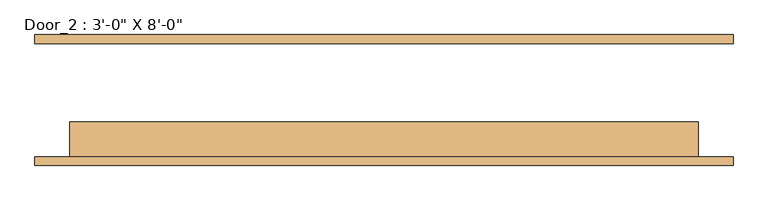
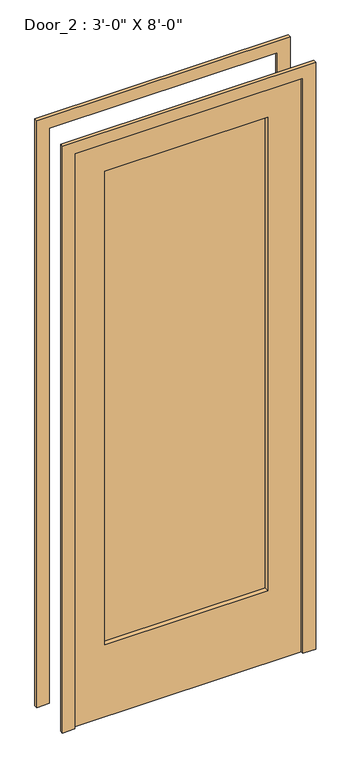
"""IFC4 building model written with IfcOpenShell, lengths in millimetres: door geometry."""

from ifc_helpers import new_model, si_unit, frame, origin, place, context, project, spatial, polyline, outline, extrude, source, transform, mapped, element, save


def door_78e68b44(model_context):
    return source(origin(), model_context, "Body", "SweptSolid", [
        extrude(outline(polyline([(-330.2, -60.325), (-330.2, -47.625), (323.85, -47.625), (323.85, -60.325), (-330.2, -60.325)])), frame((0.0, 0.0, 304.8), z_axis=(0.0, 0.0, 1.0), x_axis=(1.0, 0.0, 0.0)), (0.0, 0.0, 1.0), 2006.6),
        extrude(outline(polyline([(0.0, 457.2), (0.0, 508.0), (2489.2, 508.0), (2489.2, -508.0), (0.0, -508.0), (0.0, -457.2), (2438.4, -457.2), (2438.4, 457.2), (0.0, 457.2)])), frame((0.0, 85.725, 0.0), z_axis=(0.0, 1.0, 0.0), x_axis=(0.0, 0.0, 1.0)), (0.0, 0.0, 1.0), 12.7),
        extrude(outline(polyline([(0.0, 457.2), (0.0, 508.0), (2489.2, 508.0), (2489.2, -508.0), (0.0, -508.0), (0.0, -457.2), (2438.4, -457.2), (2438.4, 457.2), (0.0, 457.2)])), frame((0.0, -92.075, 0.0), z_axis=(0.0, 1.0, 0.0), x_axis=(0.0, 0.0, 1.0)), (0.0, 0.0, 1.0), 12.7),
        extrude(outline(polyline([(2438.4, -457.2), (0.0, -457.2), (0.0, 457.2), (2438.4, 457.2), (2438.4, -457.2)]), holes=[polyline([(304.8, -330.2), (2311.4, -330.2), (2311.4, 323.85), (304.8, 323.85), (304.8, -330.2)])]), frame((0.0, -79.375, 0.0), z_axis=(0.0, 1.0, 0.0), x_axis=(0.0, 0.0, 1.0)), (0.0, 0.0, 1.0), 50.8),
    ])


if __name__ == "__main__":
    model = new_model("IFC4")
    model_context = context("Model", 3, world=origin())
    ifc_project = project(units=[si_unit("LENGTHUNIT", "METRE", prefix="MILLI")], contexts=[model_context])
    site = spatial("IfcSite", under=ifc_project)
    building = spatial("IfcBuilding", under=site)
    placement = place(None, origin())
    door_shape = door_78e68b44(model_context)
    element("IfcDoor", 1, ObjectType="Door_2 : 3'-0\" X 8'-0\"", at=placement, inside=building, context=model_context, shape_type="MappedRepresentation", body=[
        mapped(door_shape, transform((0.0, 0.0, 0.0), x_axis=(1.0, 0.0, 0.0), y_axis=(0.0, 1.0, 0.0), z_axis=(0.0, 0.0, 1.0))),
    ])
    save(model, "model.ifc")
